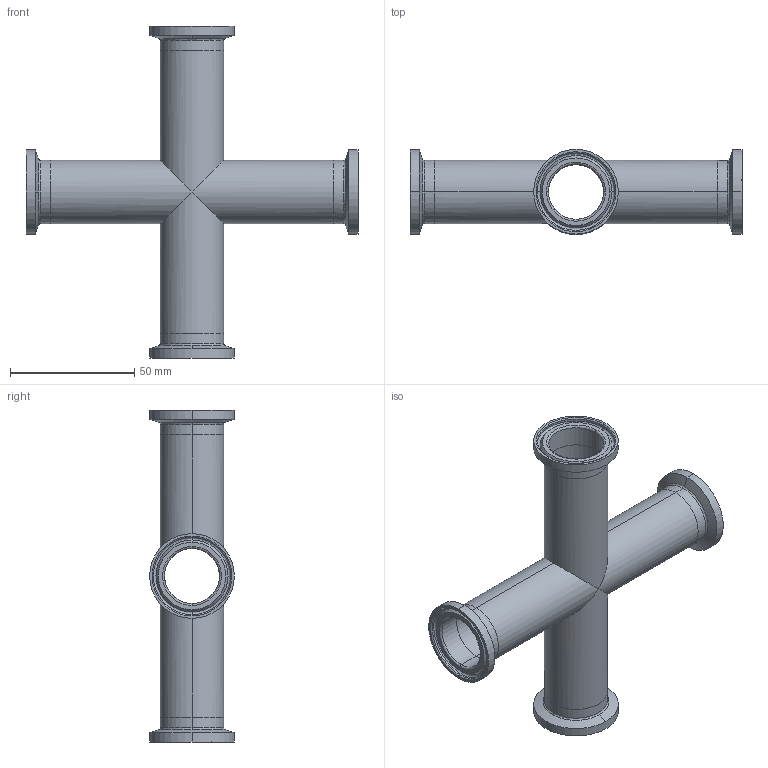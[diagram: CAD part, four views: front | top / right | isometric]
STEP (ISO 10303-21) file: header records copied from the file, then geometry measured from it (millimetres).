
FILE_DESCRIPTION (( 'STEP AP214' ), '1' );
FILE_NAME ('TEG96L1.0-.._ Type A.STEP', '2016-05-22T05:37:32', ( 'eran' ), ( '' ), 'SwSTEP 2.0', 'SolidWorks 2016', '' );
FILE_SCHEMA (( 'AUTOMOTIVE_DESIGN' ));
Length unit declared in the file: millimetre
Products named in the file (1): TEG96L1.0-.._ Type A
Bounding box: 133.35 x 34.01 x 133.35 mm (x, y, z)
Volume: 34239.7 mm3; surface area: 40466.2 mm2
Topology: 5 solids, 5 shells, 112 faces, 256 edges, 156 vertices
Faces by surface type: cylinder 48, bspline 32, plane 16, cone 16
Entity records: 3638 total; most frequent: CARTESIAN_POINT 1101, DIRECTION 546, ORIENTED_EDGE 512, EDGE_CURVE 256, AXIS2_PLACEMENT_3D 241, CIRCLE 160, VERTEX_POINT 156, EDGE_LOOP 128
